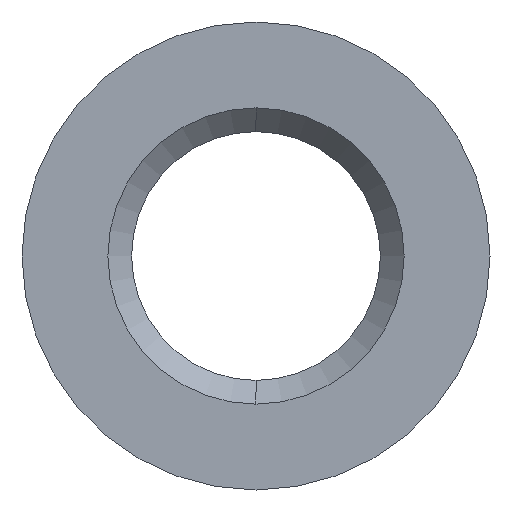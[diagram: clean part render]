
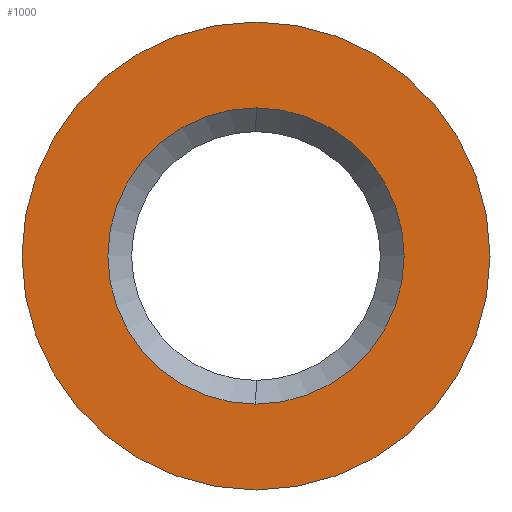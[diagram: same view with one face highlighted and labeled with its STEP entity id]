
A CAD part, left-side view. The second image highlights one B-rep face of the part: STEP entity #1000.
In plain terms, the highlighted planar face has unit normal (-1, 0, 0).
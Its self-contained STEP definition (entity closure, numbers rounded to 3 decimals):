
#1 = EDGE_LOOP ( 'NONE', ( #233, #1075 ) ) ;
#16 = VERTEX_POINT ( 'NONE', #1062 ) ;
#18 = CARTESIAN_POINT ( 'NONE',  ( -9.37, 0., 0. ) ) ;
#27 = DIRECTION ( 'NONE',  ( 1., 0., 0. ) ) ;
#44 = CARTESIAN_POINT ( 'NONE',  ( -9.37, 0., 0. ) ) ;
#66 = DIRECTION ( 'NONE',  ( -1., 0., 0. ) ) ;
#222 = DIRECTION ( 'NONE',  ( 0., 0., 1. ) ) ;
#233 = ORIENTED_EDGE ( 'NONE', *, *, #580, .T. ) ;
#259 = DIRECTION ( 'NONE',  ( -1., 0., 0. ) ) ;
#269 = CARTESIAN_POINT ( 'NONE',  ( -9.37, 0., 0. ) ) ;
#288 = CIRCLE ( 'NONE', #554, 3.95 ) ;
#294 = CARTESIAN_POINT ( 'NONE',  ( -9.37, 0., -3.95 ) ) ;
#295 = VERTEX_POINT ( 'NONE', #1026 ) ;
#297 = CIRCLE ( 'NONE', #988, 3.95 ) ;
#365 = DIRECTION ( 'NONE',  ( 1., 0., 0. ) ) ;
#401 = AXIS2_PLACEMENT_3D ( 'NONE', #44, #365, #1035 ) ;
#404 = FACE_BOUND ( 'NONE', #1, .T. ) ;
#420 = VERTEX_POINT ( 'NONE', #294 ) ;
#437 = CARTESIAN_POINT ( 'NONE',  ( -9.37, 0., -2.5 ) ) ;
#441 = AXIS2_PLACEMENT_3D ( 'NONE', #269, #27, #514 ) ;
#450 = ORIENTED_EDGE ( 'NONE', *, *, #629, .T. ) ;
#462 = FACE_OUTER_BOUND ( 'NONE', #913, .T. ) ;
#514 = DIRECTION ( 'NONE',  ( 0., 0., 1. ) ) ;
#554 = AXIS2_PLACEMENT_3D ( 'NONE', #18, #688, #1025 ) ;
#579 = DIRECTION ( 'NONE',  ( 0., 0., 1. ) ) ;
#580 = EDGE_CURVE ( 'NONE', #295, #823, #1018, .T. ) ;
#629 = EDGE_CURVE ( 'NONE', #420, #16, #288, .T. ) ;
#661 = CIRCLE ( 'NONE', #401, 2.5 ) ;
#664 = EDGE_CURVE ( 'NONE', #823, #295, #661, .T. ) ;
#685 = CARTESIAN_POINT ( 'NONE',  ( -9.37, 0., 0. ) ) ;
#688 = DIRECTION ( 'NONE',  ( -1., 0., 0. ) ) ;
#744 = AXIS2_PLACEMENT_3D ( 'NONE', #961, #66, #222 ) ;
#823 = VERTEX_POINT ( 'NONE', #437 ) ;
#861 = EDGE_CURVE ( 'NONE', #16, #420, #297, .T. ) ;
#913 = EDGE_LOOP ( 'NONE', ( #450, #996 ) ) ;
#961 = CARTESIAN_POINT ( 'NONE',  ( -9.37, 0., 0. ) ) ;
#988 = AXIS2_PLACEMENT_3D ( 'NONE', #685, #259, #579 ) ;
#996 = ORIENTED_EDGE ( 'NONE', *, *, #861, .T. ) ;
#1000 = ADVANCED_FACE ( 'NONE', ( #404, #462 ), #1051, .T. ) ;
#1018 = CIRCLE ( 'NONE', #441, 2.5 ) ;
#1025 = DIRECTION ( 'NONE',  ( 0., 0., 1. ) ) ;
#1026 = CARTESIAN_POINT ( 'NONE',  ( -9.37, 0., 2.5 ) ) ;
#1035 = DIRECTION ( 'NONE',  ( 0., 0., 1. ) ) ;
#1051 = PLANE ( 'NONE',  #744 ) ;
#1062 = CARTESIAN_POINT ( 'NONE',  ( -9.37, 0., 3.95 ) ) ;
#1075 = ORIENTED_EDGE ( 'NONE', *, *, #664, .T. ) ;
